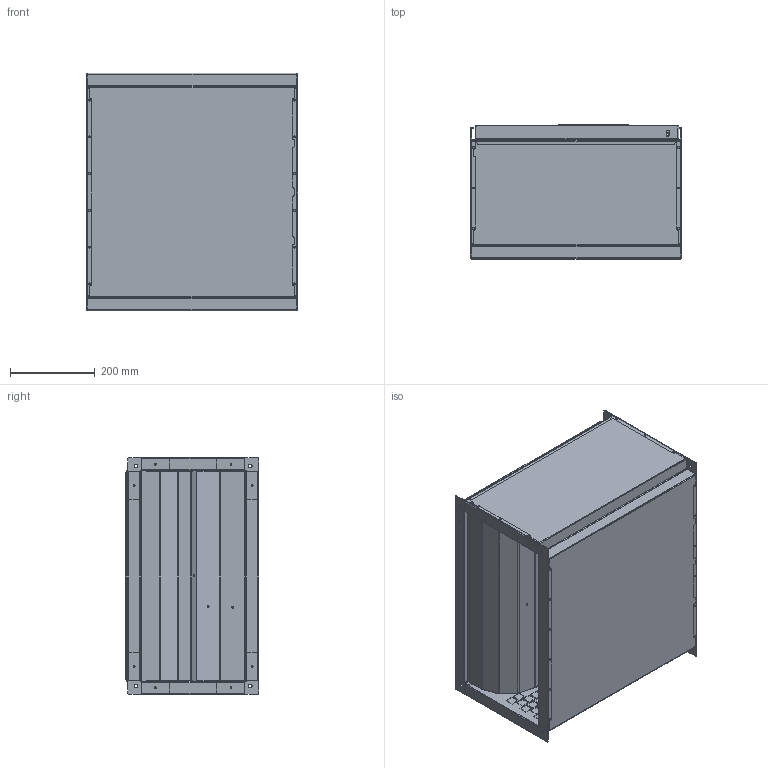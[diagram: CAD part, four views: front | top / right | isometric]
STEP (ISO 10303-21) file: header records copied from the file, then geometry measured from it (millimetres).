
FILE_DESCRIPTION (( 'STEP AP203' ), '1' );
FILE_NAME ('131434-00_KVRI05025EC30.STEP', '2015-05-11T11:29:26', ( '' ), ( '' ), 'SwSTEP 2.0', 'SolidWorks 2012', '' );
FILE_SCHEMA (( 'CONFIG_CONTROL_DESIGN' ));
Products named in the file (1): 131434-00_KVRI05025EC30
Bounding box: 500.4 x 316.9 x 561.6 mm (x, y, z)
Surface area: 3536210.9 mm2 (no closed solid volume)
Topology: 0 solids, 36 shells, 1213 faces, 9049 edges, 7595 vertices
Faces by surface type: plane 788, cylinder 416, bspline 7, torus 2
Entity records: 87506 total; most frequent: CARTESIAN_POINT 18719, DIRECTION 12665, ORIENTED_EDGE 11637, EDGE_CURVE 9049, LINE 7719, VECTOR 7719, VERTEX_POINT 7595, EDGE_LOOP 3029
